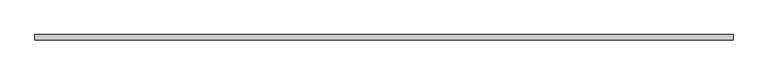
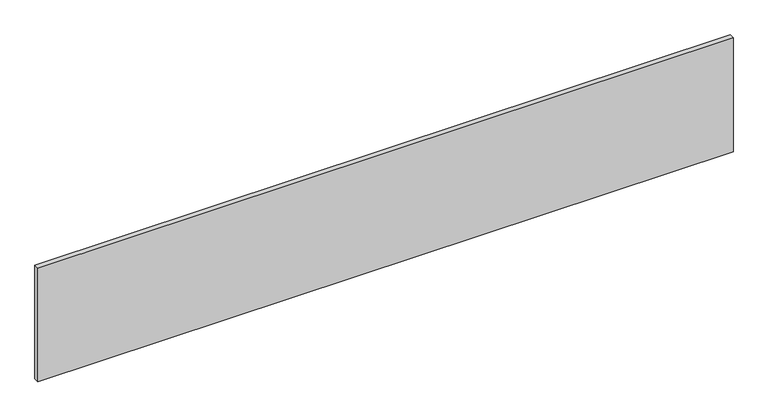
"""IFC4 building model written with IfcOpenShell, lengths in millimetres: proxy geometry, GM_Панель фасадная : Декоративные перемычки."""

from ifc_helpers import new_model, si_unit, origin, origin_with_axes, place, context, project, spatial, polyline, outline, extrude, source, transform, mapped, element, save


def generic_models_5927405c(model_context):
    return source(origin(), model_context, "Body", "SweptSolid", [
        extrude(outline(polyline([(-2475.0, 125.0), (125.0, 125.0), (125.0, 105.0), (-2475.0, 105.0), (-2475.0, 125.0)])), origin_with_axes(), (0.0, 0.0, 1.0), 450.0),
    ])


if __name__ == "__main__":
    model = new_model("IFC4")
    model_context = context("Model", 3, world=origin())
    ifc_project = project(units=[si_unit("LENGTHUNIT", "METRE", prefix="MILLI")], contexts=[model_context])
    site = spatial("IfcSite", under=ifc_project)
    building = spatial("IfcBuilding", under=site)
    placement = place(None, origin())
    generic_models_shape = generic_models_5927405c(model_context)
    element("IfcBuildingElementProxy", 1, Name="GM_Панель фасадная : Декоративные перемычки", ObjectType="GM_Панель фасадная : Декоративные перемычки", at=placement, inside=building, context=model_context, shape_type="MappedRepresentation", body=[
        mapped(generic_models_shape, transform((0.0, 0.0, 0.0), x_axis=(1.0, 0.0, 0.0), y_axis=(0.0, 1.0, 0.0), z_axis=(0.0, 0.0, 1.0))),
    ])
    save(model, "model.ifc")
